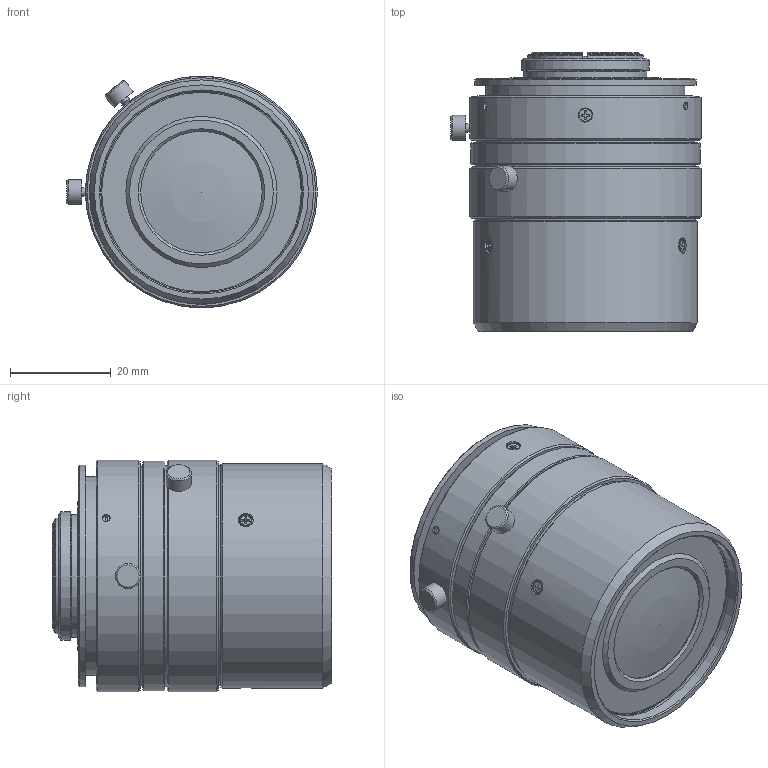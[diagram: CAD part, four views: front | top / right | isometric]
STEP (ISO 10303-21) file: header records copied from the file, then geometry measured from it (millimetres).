
FILE_DESCRIPTION(('LS-FFL-0055'),'2;1');
FILE_NAME('LS-FFL-0055.stp','2026-10-15T21:51:04',('LumaSpec Vision'),('LumaSpec Vision'),'LumaSpec Vision','LumaSpec Vision','');
FILE_SCHEMA(('AUTOMOTIVE_DESIGN { 1 0 10303 214 1 1 1 1 }'));
Length unit declared in the file: millimetre
Products named in the file (1): LS-FFL-0055
Bounding box: 49.75 x 55.38 x 46 mm (x, y, z)
Volume: 78136.4 mm3; surface area: 13830.6 mm2
Topology: 1 solids, 6 shells, 338 faces, 841 edges, 554 vertices
Faces by surface type: plane 215, cylinder 72, cone 46, torus 3, sphere 2
Full cylindrical faces by diameter (mm): 1.5 x2, 1.567 x4, 1.7 x7, 1.8 x4, 2 x2, 2.5 x4, 2.8 x1, 3 x7, 4.999 x2, 18.4 x1, 23 x1, 24.1 x1, 24.4 x1, 25.4 x1, 30 x1, 30.2 x1, 39.5 x1, 39.6 x1, 40 x3, 40.5 x1, 43.4 x1, 43.7 x2, 44 x1, 44.2 x2, 44.5 x1, 45.5 x1, 46 x2
Entity records: 22414 total; most frequent: CARTESIAN_POINT 5398, DIRECTION 3180, LINE 1943, VECTOR 1943, ORIENTED_EDGE 1678, PCURVE 1678, DEFINITIONAL_REPRESENTATION 1678, EDGE_CURVE 839
